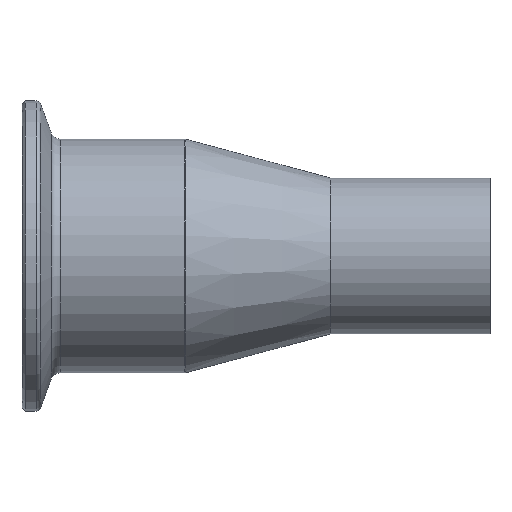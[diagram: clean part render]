
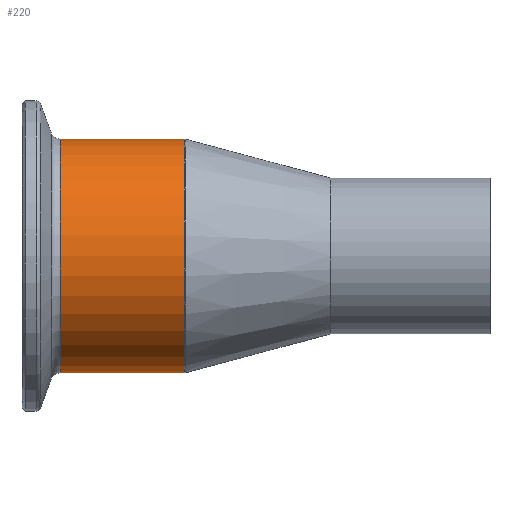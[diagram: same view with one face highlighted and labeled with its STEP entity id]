
A CAD part, top view. The second image highlights one B-rep face of the part: STEP entity #220.
In plain terms, the highlighted cylindrical face has radius 19.05 mm (diameter 38.1 mm), a partial arc.
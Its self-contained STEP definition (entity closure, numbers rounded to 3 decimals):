
#26 = VERTEX_POINT ( 'NONE', #802 ) ;
#39 = EDGE_CURVE ( 'NONE', #26, #267, #77, .T. ) ;
#51 = DIRECTION ( 'NONE',  ( 1., 0., 0. ) ) ;
#63 = VERTEX_POINT ( 'NONE', #573 ) ;
#77 = CIRCLE ( 'NONE', #114, 19.05 ) ;
#84 = LINE ( 'NONE', #144, #969 ) ;
#114 = AXIS2_PLACEMENT_3D ( 'NONE', #209, #275, #736 ) ;
#129 = LINE ( 'NONE', #901, #1003 ) ;
#144 = CARTESIAN_POINT ( 'NONE',  ( 0., -19.05, 0. ) ) ;
#209 = CARTESIAN_POINT ( 'NONE',  ( -69.973, 0., 0. ) ) ;
#220 = ADVANCED_FACE ( 'NONE', ( #794 ), #775, .T. ) ;
#225 = DIRECTION ( 'NONE',  ( 0., -1., 0. ) ) ;
#231 = ORIENTED_EDGE ( 'NONE', *, *, #270, .T. ) ;
#234 = CARTESIAN_POINT ( 'NONE',  ( -49.804, 19.05, 0. ) ) ;
#245 = VERTEX_POINT ( 'NONE', #234 ) ;
#246 = CARTESIAN_POINT ( 'NONE',  ( -69.973, -19.05, 0. ) ) ;
#253 = ORIENTED_EDGE ( 'NONE', *, *, #39, .T. ) ;
#265 = AXIS2_PLACEMENT_3D ( 'NONE', #379, #658, #415 ) ;
#267 = VERTEX_POINT ( 'NONE', #246 ) ;
#270 = EDGE_CURVE ( 'NONE', #267, #63, #84, .T. ) ;
#275 = DIRECTION ( 'NONE',  ( 1., 0., 0. ) ) ;
#304 = DIRECTION ( 'NONE',  ( -1., 0., 0. ) ) ;
#327 = EDGE_LOOP ( 'NONE', ( #253, #231, #638, #999 ) ) ;
#379 = CARTESIAN_POINT ( 'NONE',  ( 0., 0., 0. ) ) ;
#415 = DIRECTION ( 'NONE',  ( 0., 1., 0. ) ) ;
#418 = CIRCLE ( 'NONE', #680, 19.05 ) ;
#438 = EDGE_CURVE ( 'NONE', #63, #245, #418, .T. ) ;
#509 = EDGE_CURVE ( 'NONE', #26, #245, #129, .T. ) ;
#560 = DIRECTION ( 'NONE',  ( 1., 0., 0. ) ) ;
#573 = CARTESIAN_POINT ( 'NONE',  ( -49.804, -19.05, 0. ) ) ;
#638 = ORIENTED_EDGE ( 'NONE', *, *, #438, .T. ) ;
#658 = DIRECTION ( 'NONE',  ( 1., 0., 0. ) ) ;
#680 = AXIS2_PLACEMENT_3D ( 'NONE', #911, #304, #225 ) ;
#736 = DIRECTION ( 'NONE',  ( 0., 1., 0. ) ) ;
#775 = CYLINDRICAL_SURFACE ( 'NONE', #265, 19.05 ) ;
#794 = FACE_OUTER_BOUND ( 'NONE', #327, .T. ) ;
#802 = CARTESIAN_POINT ( 'NONE',  ( -69.973, 19.05, 0. ) ) ;
#901 = CARTESIAN_POINT ( 'NONE',  ( 0., 19.05, 0. ) ) ;
#911 = CARTESIAN_POINT ( 'NONE',  ( -49.804, 0., 0. ) ) ;
#969 = VECTOR ( 'NONE', #51, 1000. ) ;
#999 = ORIENTED_EDGE ( 'NONE', *, *, #509, .F. ) ;
#1003 = VECTOR ( 'NONE', #560, 1000. ) ;
